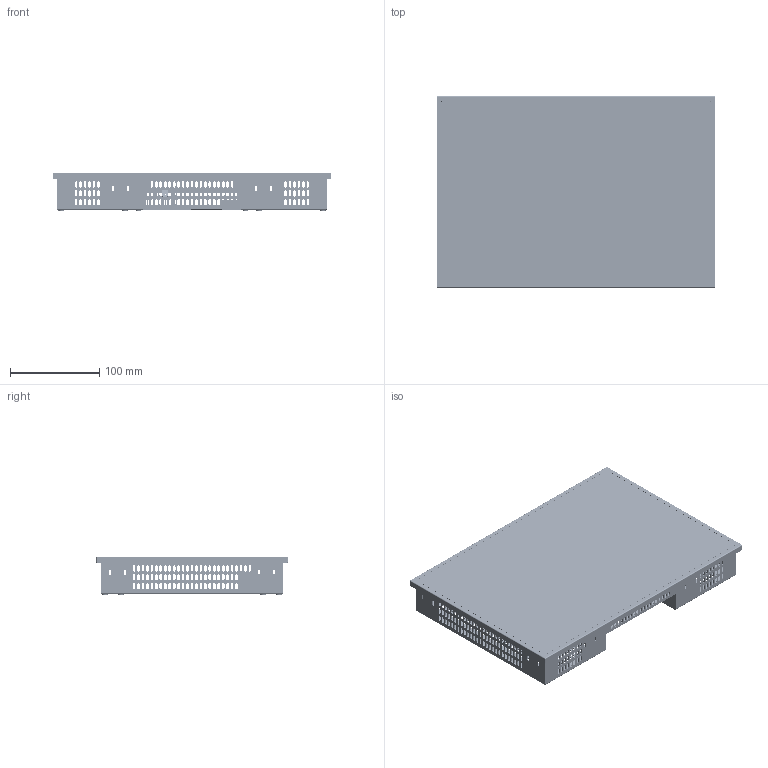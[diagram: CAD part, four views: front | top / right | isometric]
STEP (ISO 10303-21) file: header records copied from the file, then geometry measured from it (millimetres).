
FILE_DESCRIPTION (( 'STEP AP214' ), '1' );
FILE_NAME ('ETT1264 01-230-1264 20220203.STEP', '2022-02-03T13:54:34', ( 'Windows-Benutzer' ), ( '' ), 'SwSTEP 2.0', 'SolidWorks 2020', '' );
FILE_SCHEMA (( 'AUTOMOTIVE_DESIGN' ));
Length unit declared in the file: millimetre
Products named in the file (14): ZM1911-4415-11 Alufront TP1261; ZM1911-4417-10 Dichtungsset TP1261; 05323 Gehäuse ETT1264; 05323 Steckerblech ETT1264; ZM1911-4417-10 Dichtungsstreifen lang TP1261; 3030203203 12,1 Zoll Glasfront+kap.Touch+COF T185SSS-SF0012-LEC0002-CG0025 Higgstec_Support-Daten; ZM1911-4417-10 Dichtungsstreifen kurz TP1261; 3030261972 Moosgummistreifen 400 x 2,5 x 1 TP1261; ETT1264 01-230-1264 20220203; so_m3_6; 3030301081 Linsenflanschkopfschraube M3x06 ISO7380-2 TX_0304055923 Button head socket screw ISO 7380 M4x35; 3030203262 Lichtleiter Bivar PLPC2-100 (ETTXX34)
Assembly tree (26 placements, depth 3):
  ETT1264 01-230-1264 20220203
    ZM1911-4415-11 Alufront TP1261
      ZM1911-4415-11 Alufront TP1261
    ZM1911-4417-10 Dichtungsset TP1261
      ZM1911-4417-10 Dichtungsstreifen lang TP1261  x2
      ZM1911-4417-10 Dichtungsstreifen kurz TP1261  x2
    3030203262 Lichtleiter Bivar PLPC2-100 (ETTXX34)  x2
    05323 Gehäuse ETT1264
      05323 Gehäuse ETT1264
      05323 Steckerblech ETT1264
      so_m3_6  x4
    3030203203 12,1 Zoll Glasfront+kap.Touch+COF T185SSS-SF0012-LEC0002-CG0025 Higgstec_Support-Daten
    3030301081 Linsenflanschkopfschraube M3x06 ISO7380-2 TX_0304055923 Button head socket screw ISO 7380 M4x35  x8
    3030261972 Moosgummistreifen 400 x 2,5 x 1 TP1261
Bounding box: 313 x 215 x 43.7 mm (x, y, z)
Volume: 280092.3 mm3; surface area: 457580.6 mm2
Topology: 28 solids, 28 shells, 6093 faces, 17709 edges, 11702 vertices
Faces by surface type: cylinder 3052, plane 2867, torus 64, cone 60, bspline 46, sphere 4
Entity records: 196672 total; most frequent: CARTESIAN_POINT 34626, DIRECTION 33572, ORIENTED_EDGE 33320, EDGE_CURVE 16660, AXIS2_PLACEMENT_3D 11357, VERTEX_POINT 11057, VECTOR 10858, LINE 10858
